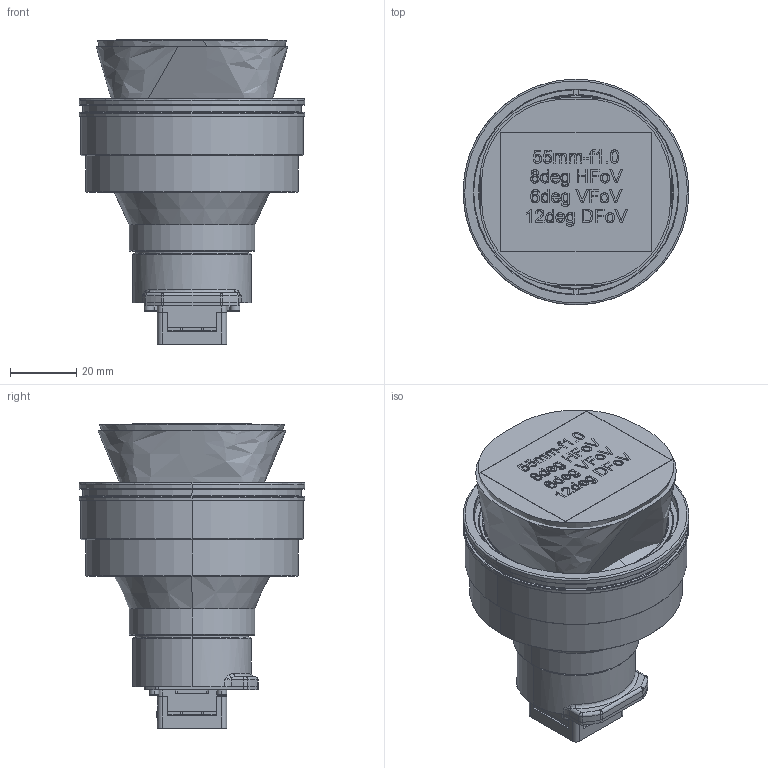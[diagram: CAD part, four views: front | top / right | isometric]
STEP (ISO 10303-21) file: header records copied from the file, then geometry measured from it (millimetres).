
FILE_DESCRIPTION (( 'STEP AP214' ), '1' );
FILE_NAME ('21-Boson 640SL 55.0mm-f1.0, 8.0deg HFoV 9Hz.STEP', '2018-07-20T22:23:46', ( '' ), ( '' ), 'SwSTEP 2.0', 'SolidWorks 2018', '' );
FILE_SCHEMA (( 'AUTOMOTIVE_DESIGN' ));
Length unit declared in the file: millimetre
Products named in the file (10): Adapter Plate, M34 Lens Interface; Sensor Module, Boson 640; Label, Boson Camera 9Hz; Screw SHC, M-1.6 x 0.35 x 4; Lens Assy, 55mm-f1.0; Screw FLPH M1.6x0.35 x 6mm L_1; PCBA Boson Main; 21-Boson 640SL 55.0mm-f1.0, 8.0deg HFoV 9Hz; Boson Frame, Main Board; Lens Holder, M34x0.5-Boson 320-640
Assembly tree (14 placements, depth 2):
  21-Boson 640SL 55.0mm-f1.0, 8.0deg HFoV 9Hz
    Sensor Module, Boson 640
    Boson Frame, Main Board
    PCBA Boson Main
    Adapter Plate, M34 Lens Interface
    Screw FLPH M1.6x0.35 x 6mm L_1  x3
    Lens Holder, M34x0.5-Boson 320-640
    Screw SHC, M-1.6 x 0.35 x 4  x4
    Label, Boson Camera 9Hz
    Lens Assy, 55mm-f1.0
Bounding box: 68.4 x 68.4 x 92.3 mm (x, y, z)
Volume: 236087 mm3; surface area: 48892.7 mm2
Topology: 17 solids, 17 shells, 3370 faces, 9141 edges, 5979 vertices
Faces by surface type: plane 2078, cylinder 684, bspline 414, cone 174, torus 20
Entity records: 170323 total; most frequent: CARTESIAN_POINT 56791, ORIENTED_EDGE 17580, DIRECTION 14793, EDGE_CURVE 8790, LINE 6341, VECTOR 6341, VERTEX_POINT 5796, AXIS2_PLACEMENT_3D 4226
